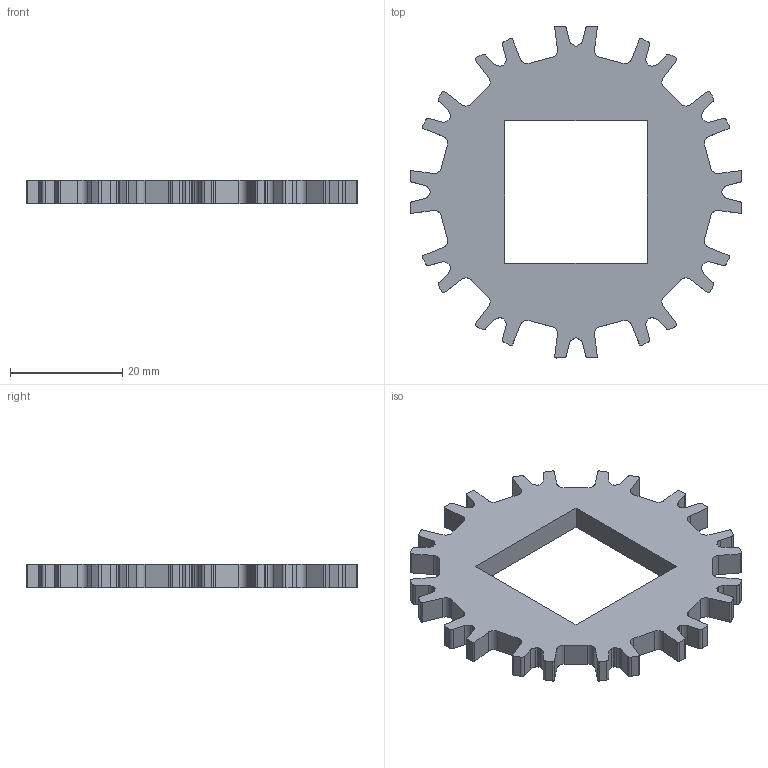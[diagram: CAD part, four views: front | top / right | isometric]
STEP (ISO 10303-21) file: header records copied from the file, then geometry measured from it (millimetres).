
FILE_DESCRIPTION((''),'2;1');
FILE_NAME('S1100_SS_23X1_SQ','2008-12-12T',('jmumphre'),(''),'PRO/ENGINEER BY PARAMETRIC TECHNOLOGY CORPORATION, 2008150','PRO/ENGINEER BY PARAMETRIC TECHNOLOGY CORPORATION, 2008150','');
FILE_SCHEMA(('CONFIG_CONTROL_DESIGN'));
Length unit declared in the file: inch
Products named in the file (1): S1100_SS_23X1_SQ
Bounding box: 59.07 x 59.07 x 4.17 mm (x, y, z)
Volume: 6459.8 mm3; surface area: 4939.4 mm2
Topology: 1 solids, 1 shells, 222 faces, 660 edges, 440 vertices
Faces by surface type: plane 114, cylinder 108
Entity records: 7544 total; most frequent: CARTESIAN_POINT 1322, DIRECTION 1320, ORIENTED_EDGE 1320, EDGE_CURVE 660, VECTOR 444, LINE 444, VERTEX_POINT 440, AXIS2_PLACEMENT_3D 438
